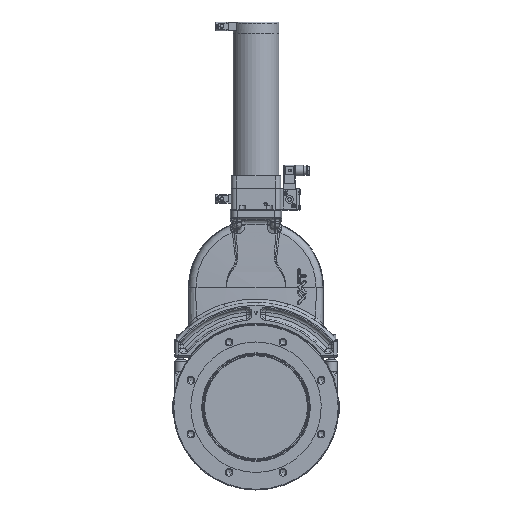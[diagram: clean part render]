
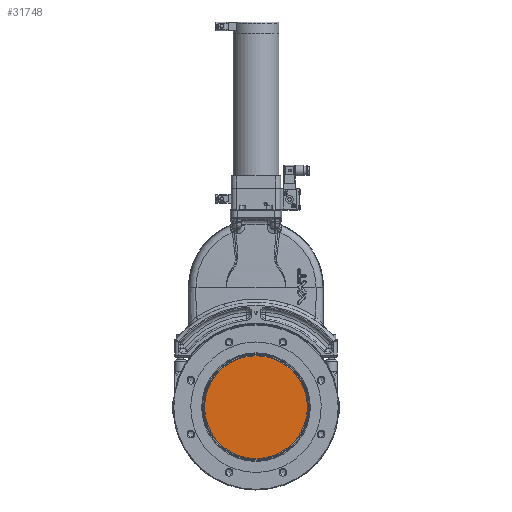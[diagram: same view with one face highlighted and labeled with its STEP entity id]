
A CAD part, top view. The second image highlights one B-rep face of the part: STEP entity #31748.
In plain terms, the highlighted planar face has unit normal (0, 0, 1).
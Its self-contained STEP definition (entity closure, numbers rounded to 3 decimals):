
#21444=FACE_OUTER_BOUND('',#37287,.T.);
#27715=PLANE('',#73121);
#31748=ADVANCED_FACE('',(#21444),#27715,.T.);
#37287=EDGE_LOOP('',(#53201));
#53201=ORIENTED_EDGE('',*,*,#66475,.T.);
#58511=VERTEX_POINT('',#144439);
#66475=EDGE_CURVE('',#58511,#58511,#68429,.T.);
#68429=CIRCLE('',#73120,72.998);
#73120=AXIS2_PLACEMENT_3D('',#144438,#85647,#85648);
#73121=AXIS2_PLACEMENT_3D('',#144440,#85649,#85650);
#85647=DIRECTION('',(0.,0.,1.));
#85648=DIRECTION('',(1.,0.,0.));
#85649=DIRECTION('',(0.,0.,1.));
#85650=DIRECTION('',(1.,0.,0.));
#144438=CARTESIAN_POINT('',(0.,0.,10.869));
#144439=CARTESIAN_POINT('',(72.998,0.,10.869));
#144440=CARTESIAN_POINT('',(0.,0.,10.869));
